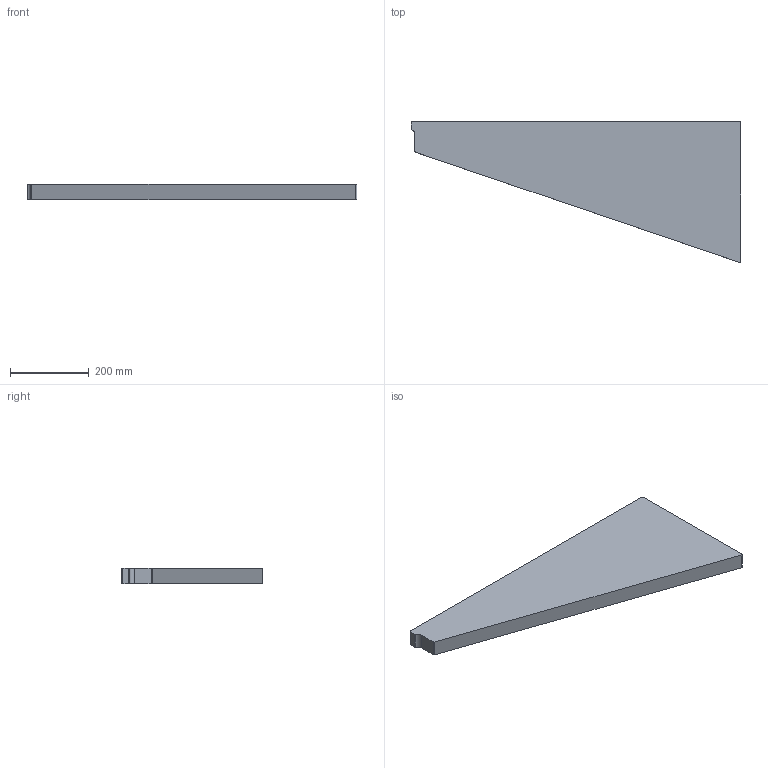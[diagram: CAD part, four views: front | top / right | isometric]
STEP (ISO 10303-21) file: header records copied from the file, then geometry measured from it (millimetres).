
FILE_DESCRIPTION(/* description */ (''),/* implementation_level */ '2;1');
FILE_NAME(/* name */ 'Pos111-Hout D= 40-Hout-3st',/* time_stamp */ '2024-08-06T13:37:43+02:00',/* author */ (''),/* organization */ (''),/* preprocessor_version */ 'ST-DEVELOPER v16.5',/* originating_system */ 'HiCAD 2024 2901.2 Build 361',/* authorisation */ '');
FILE_SCHEMA (('AUTOMOTIVE_DESIGN { 1 0 10303 214 1 1 1 1 }'));
Length unit declared in the file: millimetre
Products named in the file (2): Pos111-Hout D= 40-Hout-3st; Pos0-Antislip-Rubber-0st
Assembly tree (1 placements, depth 2):
  Pos111-Hout D= 40-Hout-3st
    Pos0-Antislip-Rubber-0st
Bounding box: 840 x 359.08 x 40 mm (x, y, z)
Volume: 7279580.4 mm3; surface area: 450105.9 mm2
Topology: 1 solids, 1 shells, 13 faces, 33 edges, 22 vertices
Faces by surface type: plane 7, cylinder 6
Entity records: 773 total; most frequent: DIRECTION 75, CARTESIAN_POINT 70, PRESENTATION_STYLE_ASSIGNMENT 67, COLOUR_RGB 67, DRAUGHTING_PRE_DEFINED_CURVE_FONT 66, CURVE_STYLE 66, OVER_RIDING_STYLED_ITEM 66, ORIENTED_EDGE 66
